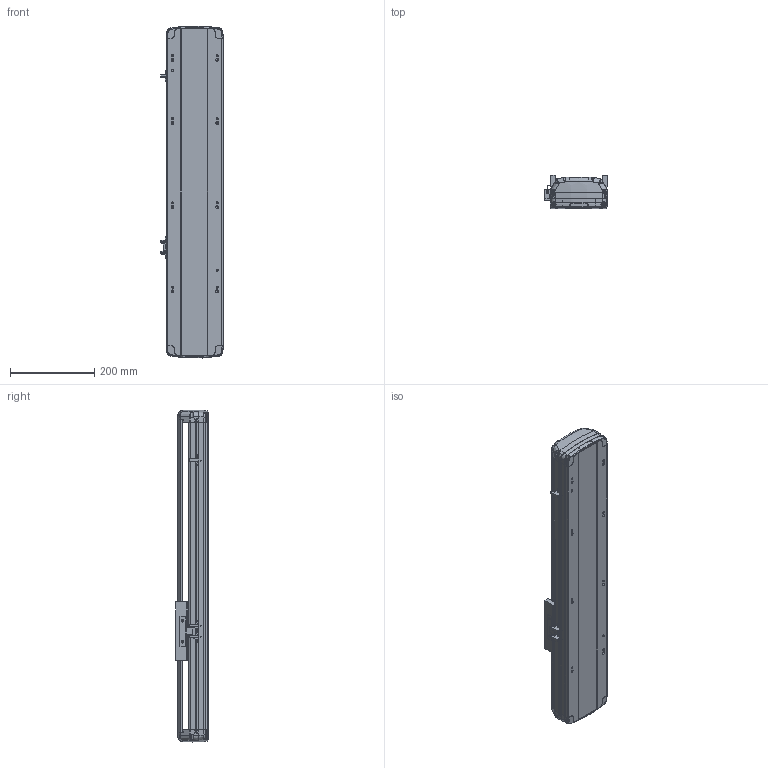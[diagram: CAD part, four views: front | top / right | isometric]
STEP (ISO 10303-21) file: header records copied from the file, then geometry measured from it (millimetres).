
FILE_DESCRIPTION (( 'STEP AP214' ), '1' );
FILE_NAME ('RTH14-XX-400-B-M20-C4.STEP', '2025-10-25T02:20:03', ( 'Microsoft' ), ( 'Microsoft' ), 'SwSTEP 2.0', 'SolidWorks 2018', '' );
FILE_SCHEMA (( 'AUTOMOTIVE_DESIGN' ));
Length unit declared in the file: millimetre
Products named in the file (7): N_RTH14-B-007奻裔^RTH14-XX-XX-B-M20-C4; N_RTH14-B-011P菁釱^RTH14-XX-XX-B-M20-C4; N_RTH13-L-012感应片（外置）^RTH14-XX-XX-B-M20-C4; N_RTH14-GY-001P^RTH14-XX-XX-B-M20-C4; N_RTH14-R-004-SFSR16賑釱^RTH14-XX-XX-B-M20-C4; N_OMRON EE-SX672 传感器^RTH14-XX-XX-B-M20-C4; RTH14-XX-400-B-M20-C4
Assembly tree (9 placements, depth 2):
  RTH14-XX-400-B-M20-C4
    N_RTH14-B-011P菁釱^RTH14-XX-XX-B-M20-C4
    N_RTH14-B-007奻裔^RTH14-XX-XX-B-M20-C4
    N_RTH13-L-012感应片（外置）^RTH14-XX-XX-B-M20-C4
    N_OMRON EE-SX672 传感器^RTH14-XX-XX-B-M20-C4  x3
    N_RTH14-R-004-SFSR16賑釱^RTH14-XX-XX-B-M20-C4
    N_RTH14-GY-001P^RTH14-XX-XX-B-M20-C4  x2
Bounding box: 148.5 x 78.03 x 788.74 mm (x, y, z)
Volume: 3341228.5 mm3; surface area: 779664.3 mm2
Topology: 9 solids, 9 shells, 1900 faces, 5350 edges, 3482 vertices
Faces by surface type: plane 975, bspline 450, cylinder 411, cone 56, torus 8
Entity records: 45974 total; most frequent: CARTESIAN_POINT 20702, ORIENTED_EDGE 5716, DIRECTION 4161, EDGE_CURVE 2858, VERTEX_POINT 1868, VECTOR 1617, LINE 1617, AXIS2_PLACEMENT_3D 1272
